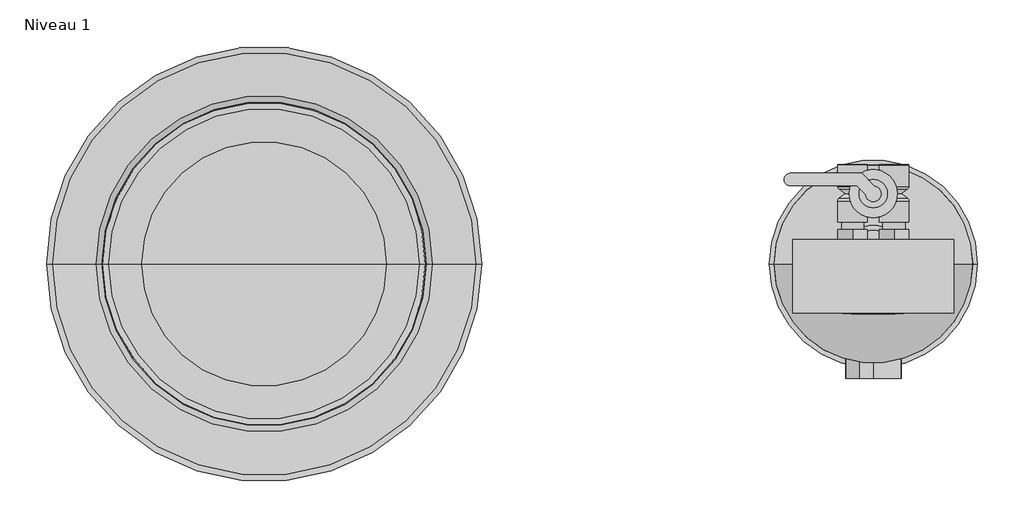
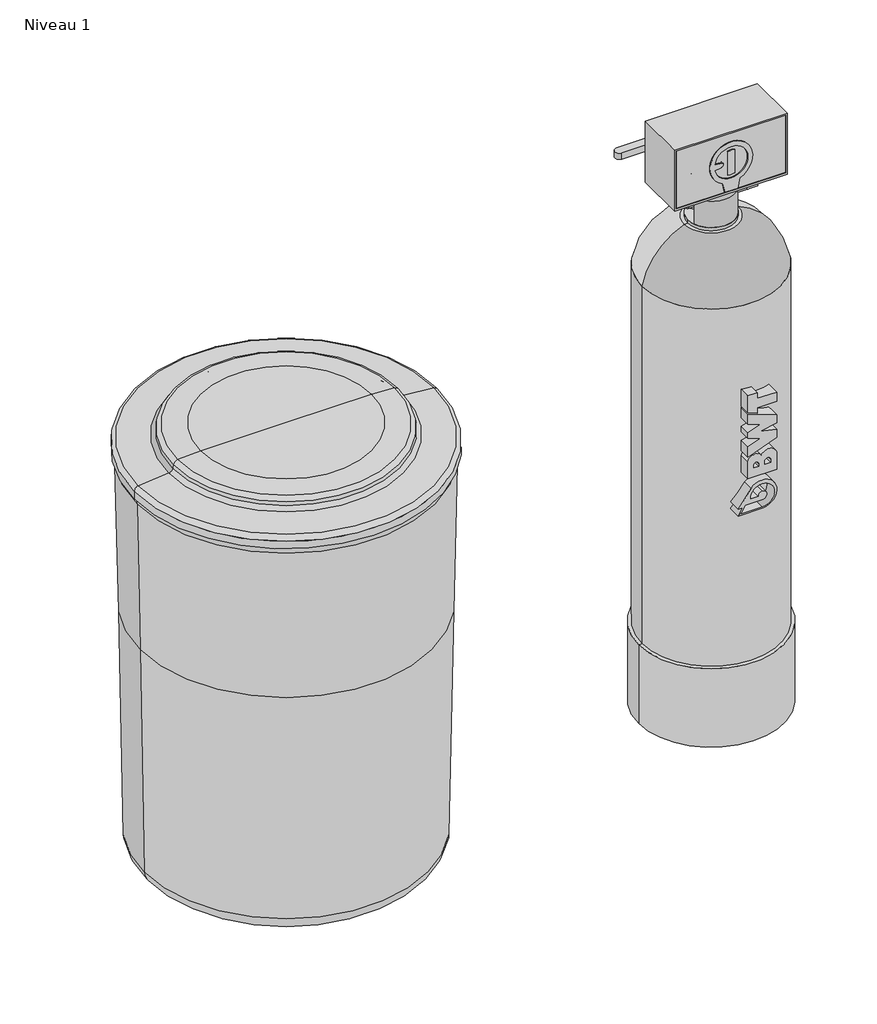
# One storey: 1 flow terminal, 1 proxy.
"""IFC4 building model written with IfcOpenShell, lengths in millimetres."""

from ifc_helpers import new_model, si_unit, origin, place, context, project, spatial, transform, mapped, element, save
from components import proxy_775_x_535_mm_d6c69f12, ec_35_b8933732

model = new_model("IFC4")

# Units and contexts
model_context = context("Model", 3, world=origin())
ifc_project = project(units=[si_unit("LENGTHUNIT", "METRE", prefix="MILLI")], contexts=[model_context])

# Site, building, storey
site = spatial("IfcSite", under=ifc_project)
building = spatial("IfcBuilding", under=site)
storey = spatial("IfcBuildingStorey", under=building, Name="Niveau 1", Elevation=0.0)

# Proxy
placement = place(None, origin())
proxy_775_x_535_mm_shape = proxy_775_x_535_mm_d6c69f12(model_context)
element("IfcBuildingElementProxy", 1, Name="BWT_Bac à sel type 1 : 775 x 535 mm", ObjectType="BWT_Bac à sel type 1 : 775 x 535 mm", at=placement, inside=storey, context=model_context, shape_type="MappedRepresentation", body=[
    mapped(proxy_775_x_535_mm_shape, transform((12.4818828, -7199.1350154, 0.0), x_axis=(1.0, 0.0, 0.0), y_axis=(0.0, 1.0, 0.0), z_axis=(0.0, 0.0, 1.0))),
])

# Flow terminal
ec_35_shape = ec_35_b8933732(model_context)
element("IfcFlowTerminal", 2, ObjectType="BWT_EC : EC 35", at=placement, inside=storey, context=model_context, shape_type="MappedRepresentation", body=[
    mapped(ec_35_shape, transform((758.6164073, -7199.1350154, 0.0), x_axis=(1.0, 0.0, 0.0), y_axis=(0.0, 1.0, 0.0), z_axis=(0.0, 0.0, 1.0))),
])

save(model, "model.ifc")
